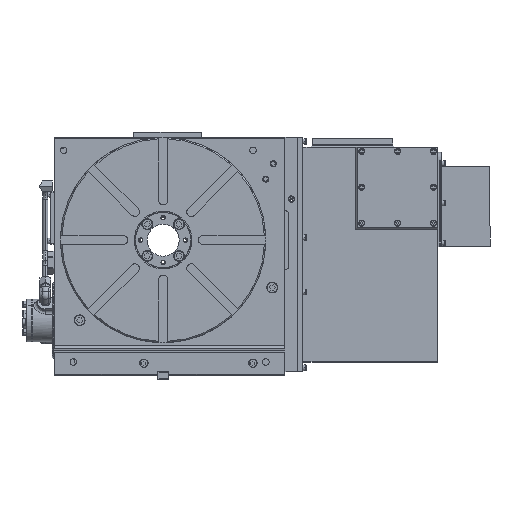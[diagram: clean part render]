
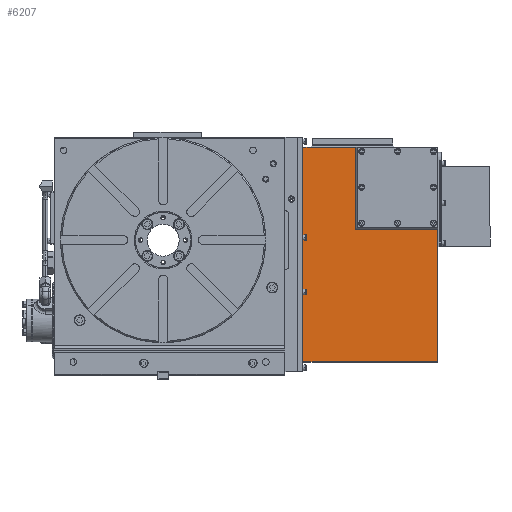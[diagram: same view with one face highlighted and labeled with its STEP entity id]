
A CAD part, top view. The second image highlights one B-rep face of the part: STEP entity #6207.
In plain terms, the highlighted planar face has unit normal (0, 0, 1).
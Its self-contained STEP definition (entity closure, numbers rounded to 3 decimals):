
#1110 = VECTOR ( 'NONE', #41852, 1000. ) ;
#1349 = ORIENTED_EDGE ( 'NONE', *, *, #19249, .T. ) ;
#1856 = CARTESIAN_POINT ( 'NONE',  ( 300., 144.8, 149.8 ) ) ;
#2477 = VERTEX_POINT ( 'NONE', #14720 ) ;
#3941 = CARTESIAN_POINT ( 'NONE',  ( 428., 16.8, 149.8 ) ) ;
#5044 = CARTESIAN_POINT ( 'NONE',  ( 428., -187.5, 149.8 ) ) ;
#5795 = DIRECTION ( 'NONE',  ( 0., 1., 0. ) ) ;
#6207 = ADVANCED_FACE ( 'NONE', ( #30763 ), #31309, .F. ) ;
#7660 = CARTESIAN_POINT ( 'NONE',  ( 428., -189.8, 149.8 ) ) ;
#8631 = VERTEX_POINT ( 'NONE', #3941 ) ;
#11043 = LINE ( 'NONE', #7660, #1110 ) ;
#14666 = ORIENTED_EDGE ( 'NONE', *, *, #39651, .F. ) ;
#14720 = CARTESIAN_POINT ( 'NONE',  ( 218., -189.8, 149.8 ) ) ;
#18160 = DIRECTION ( 'NONE',  ( 0., 0., -1. ) ) ;
#19249 = EDGE_CURVE ( 'NONE', #26156, #34023, #51528, .T. ) ;
#19902 = CARTESIAN_POINT ( 'NONE',  ( 428., -189.8, 149.8 ) ) ;
#21513 = VECTOR ( 'NONE', #42582, 1000. ) ;
#22865 = EDGE_CURVE ( 'NONE', #32014, #26156, #43611, .T. ) ;
#23997 = EDGE_CURVE ( 'NONE', #8631, #24204, #43455, .T. ) ;
#24204 = VERTEX_POINT ( 'NONE', #19902 ) ;
#25947 = AXIS2_PLACEMENT_3D ( 'NONE', #43629, #18160, #5795 ) ;
#26156 = VERTEX_POINT ( 'NONE', #28426 ) ;
#26550 = EDGE_CURVE ( 'NONE', #8631, #32014, #45456, .T. ) ;
#28426 = CARTESIAN_POINT ( 'NONE',  ( 300., 144.8, 149.8 ) ) ;
#29881 = ORIENTED_EDGE ( 'NONE', *, *, #26550, .T. ) ;
#29951 = EDGE_CURVE ( 'NONE', #34023, #2477, #45055, .T. ) ;
#30763 = FACE_OUTER_BOUND ( 'NONE', #36484, .T. ) ;
#31288 = DIRECTION ( 'NONE',  ( 0., 1., 0. ) ) ;
#31309 = PLANE ( 'NONE',  #25947 ) ;
#32014 = VERTEX_POINT ( 'NONE', #44593 ) ;
#32044 = VECTOR ( 'NONE', #41422, 1000. ) ;
#34023 = VERTEX_POINT ( 'NONE', #52589 ) ;
#34082 = VECTOR ( 'NONE', #49407, 1000. ) ;
#36091 = ORIENTED_EDGE ( 'NONE', *, *, #29951, .T. ) ;
#36484 = EDGE_LOOP ( 'NONE', ( #55015, #29881, #40816, #1349, #36091, #14666 ) ) ;
#39651 = EDGE_CURVE ( 'NONE', #24204, #2477, #11043, .T. ) ;
#40816 = ORIENTED_EDGE ( 'NONE', *, *, #22865, .T. ) ;
#41422 = DIRECTION ( 'NONE',  ( 0., -1., 0. ) ) ;
#41852 = DIRECTION ( 'NONE',  ( -1., 0., 0. ) ) ;
#42582 = DIRECTION ( 'NONE',  ( -1., 0., 0. ) ) ;
#43455 = LINE ( 'NONE', #5044, #54475 ) ;
#43611 = LINE ( 'NONE', #1856, #50092 ) ;
#43629 = CARTESIAN_POINT ( 'NONE',  ( 428., -187.5, 149.8 ) ) ;
#44593 = CARTESIAN_POINT ( 'NONE',  ( 300., 16.8, 149.8 ) ) ;
#45055 = LINE ( 'NONE', #45303, #32044 ) ;
#45303 = CARTESIAN_POINT ( 'NONE',  ( 218., -187.5, 149.8 ) ) ;
#45456 = LINE ( 'NONE', #54713, #34082 ) ;
#46810 = CARTESIAN_POINT ( 'NONE',  ( 428., 144.8, 149.8 ) ) ;
#46850 = DIRECTION ( 'NONE',  ( 0., -1., 0. ) ) ;
#49407 = DIRECTION ( 'NONE',  ( -1., 0., 0. ) ) ;
#50092 = VECTOR ( 'NONE', #31288, 1000. ) ;
#51528 = LINE ( 'NONE', #46810, #21513 ) ;
#52589 = CARTESIAN_POINT ( 'NONE',  ( 218., 144.8, 149.8 ) ) ;
#54475 = VECTOR ( 'NONE', #46850, 1000. ) ;
#54713 = CARTESIAN_POINT ( 'NONE',  ( 303., 16.8, 149.8 ) ) ;
#55015 = ORIENTED_EDGE ( 'NONE', *, *, #23997, .F. ) ;
